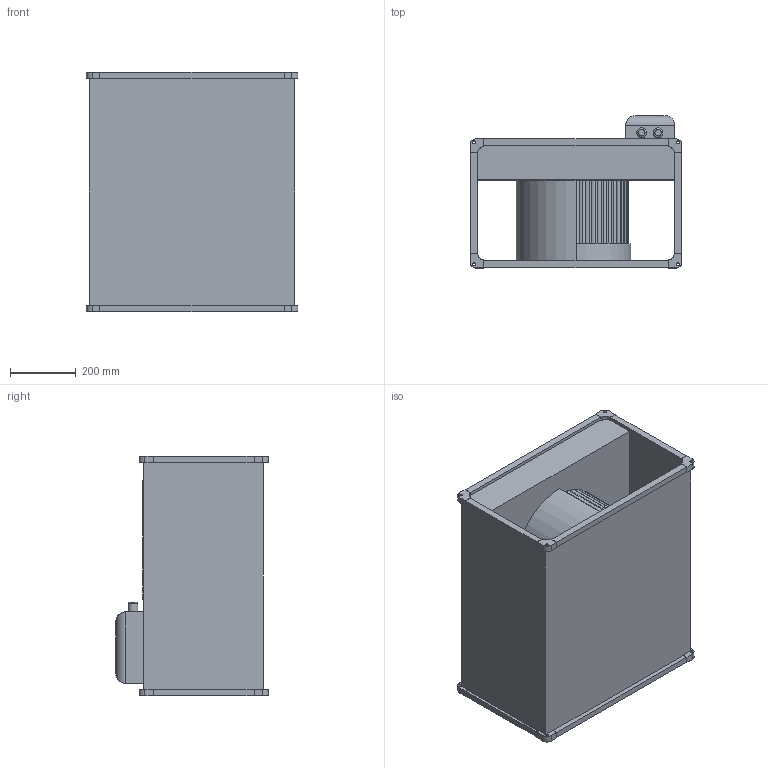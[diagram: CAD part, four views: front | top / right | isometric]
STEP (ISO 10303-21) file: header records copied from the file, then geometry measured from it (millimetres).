
FILE_DESCRIPTION(('STEP AP214'),'1');
FILE_NAME('fan_5132059600.stp','2017-03-31T18:13:24',('TraceParts'),('TraceParts S.A.'),'Spatial InterOp 3D',' ',' ');
FILE_SCHEMA(('automotive_design'));
Length unit declared in the file: millimetre
Products named in the file (1): fan_5132059600
Bounding box: 642 x 462.5 x 727 mm (x, y, z)
Volume: 80685950.1 mm3; surface area: 3353715 mm2
Topology: 1 solids, 1 shells, 265 faces, 802 edges, 534 vertices
Faces by surface type: cylinder 154, plane 107, torus 4
Entity records: 11314 total; most frequent: DIRECTION 1668, ORIENTED_EDGE 1604, CARTESIAN_POINT 1602, EDGE_CURVE 802, AXIS2_PLACEMENT_3D 600, VERTEX_POINT 534, LINE 468, VECTOR 468
